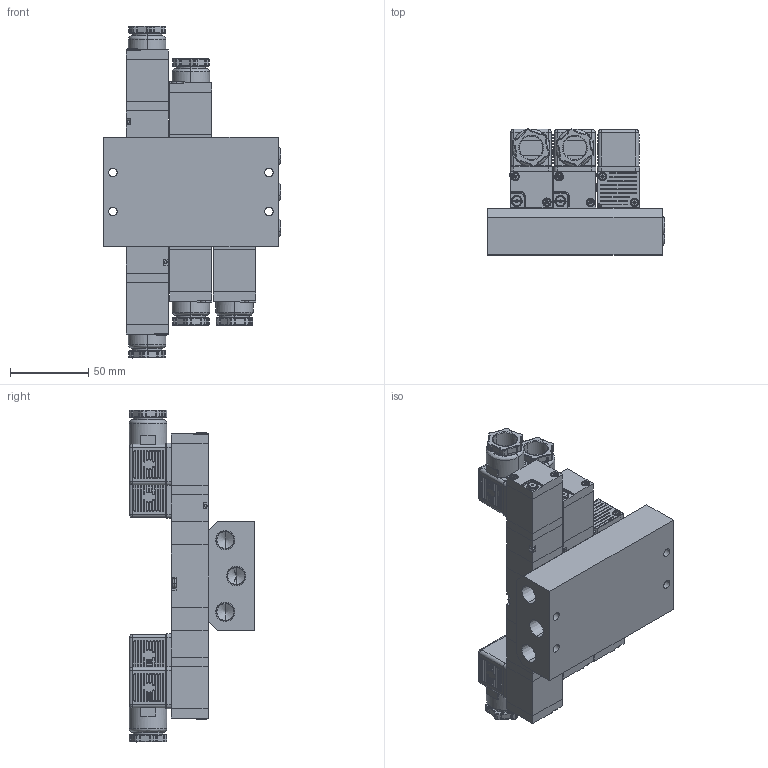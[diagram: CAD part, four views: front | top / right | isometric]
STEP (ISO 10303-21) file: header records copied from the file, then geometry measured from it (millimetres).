
FILE_DESCRIPTION (( 'STEP AP203' ), '1' );
FILE_NAME ('MFB#-PC06-02-C.STEP', '2016-02-04T05:34:02', ( 'Sam Lin' ), ( '' ), 'SwSTEP 2.0', 'SolidWorks 2013', '' );
FILE_SCHEMA (( 'CONFIG_CONTROL_DESIGN' ));
Length unit declared in the file: metre
Products named in the file (16): PC06-MARK; PCS2406-5; PCS2406-3-C; PCS2406-6; PCS2406-10; PC6-M3; PCS2406-11-T=6; PCS2406-3-小圓珠; MFB#-PC06-02; PCS2406-7; 承頭; PC6-M4; MFB#-PC06-02-C; PCS2406-8; PCS2406-9; PCS2406-4
Assembly tree (69 placements, depth 2):
  MFB#-PC06-02-C
    PCS2406-4  x3
    PCS2406-5  x5
    PCS2406-6
    PC6-M3  x12
    PCS2406-3-小圓珠  x6
    PCS2406-7  x5
    PC6-M4  x11
    PCS2406-8  x5
    PCS2406-9  x5
    PC06-MARK  x3
    PCS2406-3-C  x5
    PCS2406-10  x2
    PCS2406-11-T=6  x2
    MFB#-PC06-02
    承頭  x3
Bounding box: 113.51 x 80.64 x 212.7 mm (x, y, z)
Volume: 617054.4 mm3; surface area: 148573.5 mm2
Topology: 87 solids, 87 shells, 3147 faces, 8092 edges, 4591 vertices
Faces by surface type: plane 1143, bspline 927, cylinder 848, cone 229
Entity records: 30233 total; most frequent: CARTESIAN_POINT 12028, ORIENTED_EDGE 3212, DIRECTION 2962, EDGE_CURVE 1606, AXIS2_PLACEMENT_3D 1091, VERTEX_POINT 1020, VECTOR 780, LINE 780
